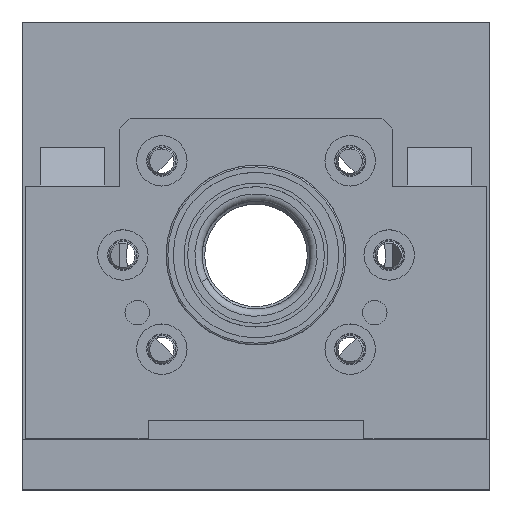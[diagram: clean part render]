
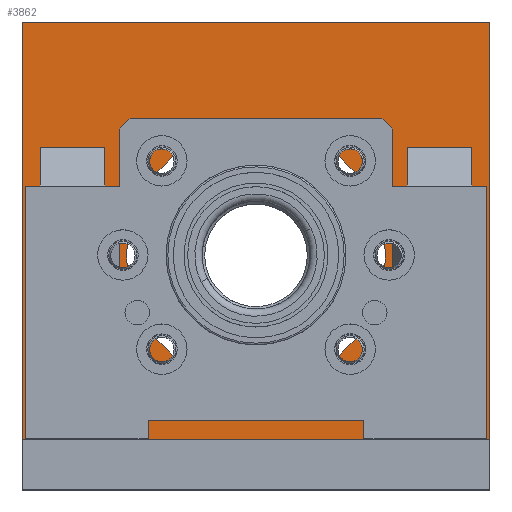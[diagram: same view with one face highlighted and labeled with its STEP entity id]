
A CAD part, top view. The second image highlights one B-rep face of the part: STEP entity #3862.
In plain terms, the highlighted planar face has unit normal (0, 0, 1).
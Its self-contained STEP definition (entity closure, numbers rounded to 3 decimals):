
#68 = LINE ( 'NONE', #2175, #3208 ) ;
#77 = EDGE_CURVE ( 'NONE', #4261, #1643, #68, .T. ) ;
#129 = ORIENTED_EDGE ( 'NONE', *, *, #1717, .F. ) ;
#202 = EDGE_CURVE ( 'NONE', #3459, #7214, #7135, .T. ) ;
#209 = EDGE_CURVE ( 'NONE', #3459, #3491, #6952, .T. ) ;
#260 = EDGE_CURVE ( 'NONE', #870, #368, #1742, .T. ) ;
#368 = VERTEX_POINT ( 'NONE', #6008 ) ;
#623 = VECTOR ( 'NONE', #2369, 1000. ) ;
#730 = VECTOR ( 'NONE', #2895, 1000. ) ;
#870 = VERTEX_POINT ( 'NONE', #1031 ) ;
#895 = EDGE_CURVE ( 'NONE', #4546, #7214, #6150, .T. ) ;
#995 = EDGE_CURVE ( 'NONE', #3491, #5666, #2002, .T. ) ;
#1031 = CARTESIAN_POINT ( 'NONE',  ( 36., 0., 20. ) ) ;
#1129 = DIRECTION ( 'NONE',  ( 0., 0., 1. ) ) ;
#1170 = DIRECTION ( 'NONE',  ( -1., 0., 0. ) ) ;
#1191 = EDGE_CURVE ( 'NONE', #5666, #5955, #4390, .T. ) ;
#1209 = CARTESIAN_POINT ( 'NONE',  ( -65., 30., 20. ) ) ;
#1221 = VERTEX_POINT ( 'NONE', #2875 ) ;
#1282 = CIRCLE ( 'NONE', #1438, 36. ) ;
#1285 = CARTESIAN_POINT ( 'NONE',  ( 60., 30., 20. ) ) ;
#1438 = AXIS2_PLACEMENT_3D ( 'NONE', #5314, #7604, #5363 ) ;
#1566 = CARTESIAN_POINT ( 'NONE',  ( -65., -65., 20. ) ) ;
#1590 = LINE ( 'NONE', #4244, #6181 ) ;
#1629 = DIRECTION ( 'NONE',  ( 0., 1., 0. ) ) ;
#1643 = VERTEX_POINT ( 'NONE', #3322 ) ;
#1717 = EDGE_CURVE ( 'NONE', #368, #870, #1282, .T. ) ;
#1742 = CIRCLE ( 'NONE', #2656, 36. ) ;
#1786 = EDGE_CURVE ( 'NONE', #5955, #2353, #2997, .T. ) ;
#1830 = PLANE ( 'NONE',  #2092 ) ;
#1885 = LINE ( 'NONE', #4214, #5887 ) ;
#2002 = LINE ( 'NONE', #2338, #623 ) ;
#2006 = ORIENTED_EDGE ( 'NONE', *, *, #5229, .T. ) ;
#2055 = CARTESIAN_POINT ( 'NONE',  ( 65., -51., 20. ) ) ;
#2092 = AXIS2_PLACEMENT_3D ( 'NONE', #1566, #1129, #2093 ) ;
#2093 = DIRECTION ( 'NONE',  ( 1., 0., 0. ) ) ;
#2152 = DIRECTION ( 'NONE',  ( -1., 0., 0. ) ) ;
#2175 = CARTESIAN_POINT ( 'NONE',  ( -65., -51., 20. ) ) ;
#2225 = CARTESIAN_POINT ( 'NONE',  ( 65., 65., 20. ) ) ;
#2338 = CARTESIAN_POINT ( 'NONE',  ( -42., 8., 20. ) ) ;
#2353 = VERTEX_POINT ( 'NONE', #4022 ) ;
#2369 = DIRECTION ( 'NONE',  ( 0., 1., 0. ) ) ;
#2448 = CARTESIAN_POINT ( 'NONE',  ( -65., 65., 20. ) ) ;
#2459 = DIRECTION ( 'NONE',  ( -1., 0., 0. ) ) ;
#2487 = VECTOR ( 'NONE', #1629, 1000. ) ;
#2530 = DIRECTION ( 'NONE',  ( 0., -1., 0. ) ) ;
#2596 = CARTESIAN_POINT ( 'NONE',  ( -65., 65., 20. ) ) ;
#2656 = AXIS2_PLACEMENT_3D ( 'NONE', #5861, #5872, #5895 ) ;
#2776 = LINE ( 'NONE', #2596, #7476 ) ;
#2819 = VECTOR ( 'NONE', #3029, 1000. ) ;
#2875 = CARTESIAN_POINT ( 'NONE',  ( -65., -51., 20. ) ) ;
#2895 = DIRECTION ( 'NONE',  ( 0., 1., 0. ) ) ;
#2955 = FACE_BOUND ( 'NONE', #3011, .T. ) ;
#2964 = CARTESIAN_POINT ( 'NONE',  ( -65., 65., 20. ) ) ;
#2997 = LINE ( 'NONE', #5728, #7320 ) ;
#3004 = CARTESIAN_POINT ( 'NONE',  ( -65., 30., 20. ) ) ;
#3006 = VERTEX_POINT ( 'NONE', #2964 ) ;
#3011 = EDGE_LOOP ( 'NONE', ( #129, #3255 ) ) ;
#3029 = DIRECTION ( 'NONE',  ( -1., 0., 0. ) ) ;
#3077 = ORIENTED_EDGE ( 'NONE', *, *, #3203, .T. ) ;
#3110 = CARTESIAN_POINT ( 'NONE',  ( 42., 30., 20. ) ) ;
#3112 = ORIENTED_EDGE ( 'NONE', *, *, #1786, .F. ) ;
#3150 = FACE_OUTER_BOUND ( 'NONE', #7720, .T. ) ;
#3203 = EDGE_CURVE ( 'NONE', #4546, #1643, #1885, .T. ) ;
#3208 = VECTOR ( 'NONE', #2152, 1000. ) ;
#3255 = ORIENTED_EDGE ( 'NONE', *, *, #260, .F. ) ;
#3286 = ORIENTED_EDGE ( 'NONE', *, *, #7784, .F. ) ;
#3322 = CARTESIAN_POINT ( 'NONE',  ( 60., -51., 20. ) ) ;
#3459 = VERTEX_POINT ( 'NONE', #6163 ) ;
#3491 = VERTEX_POINT ( 'NONE', #6331 ) ;
#3862 = ADVANCED_FACE ( 'NONE', ( #3150, #2955 ), #1830, .T. ) ;
#3889 = EDGE_CURVE ( 'NONE', #3006, #1221, #2776, .T. ) ;
#4022 = CARTESIAN_POINT ( 'NONE',  ( -60., -51., 20. ) ) ;
#4057 = LINE ( 'NONE', #2225, #2487 ) ;
#4088 = ORIENTED_EDGE ( 'NONE', *, *, #1191, .F. ) ;
#4198 = DIRECTION ( 'NONE',  ( 0., -1., 0. ) ) ;
#4214 = CARTESIAN_POINT ( 'NONE',  ( 60., 8., 20. ) ) ;
#4244 = CARTESIAN_POINT ( 'NONE',  ( -65., -51., 20. ) ) ;
#4261 = VERTEX_POINT ( 'NONE', #2055 ) ;
#4348 = DIRECTION ( 'NONE',  ( -1., 0., 0. ) ) ;
#4390 = LINE ( 'NONE', #3004, #2819 ) ;
#4448 = ORIENTED_EDGE ( 'NONE', *, *, #895, .F. ) ;
#4478 = VECTOR ( 'NONE', #1170, 1000. ) ;
#4516 = CARTESIAN_POINT ( 'NONE',  ( -60., 30., 20. ) ) ;
#4546 = VERTEX_POINT ( 'NONE', #1285 ) ;
#4678 = CARTESIAN_POINT ( 'NONE',  ( 42., 8., 20. ) ) ;
#5229 = EDGE_CURVE ( 'NONE', #6983, #3006, #7553, .T. ) ;
#5260 = VECTOR ( 'NONE', #5501, 1000. ) ;
#5274 = EDGE_CURVE ( 'NONE', #4261, #6983, #4057, .T. ) ;
#5314 = CARTESIAN_POINT ( 'NONE',  ( 0., 0., 20. ) ) ;
#5363 = DIRECTION ( 'NONE',  ( 1., 0., 0. ) ) ;
#5489 = CARTESIAN_POINT ( 'NONE',  ( -65., -51., 20. ) ) ;
#5501 = DIRECTION ( 'NONE',  ( -1., 0., 0. ) ) ;
#5533 = DIRECTION ( 'NONE',  ( 0., -1., 0. ) ) ;
#5628 = CARTESIAN_POINT ( 'NONE',  ( 65., 65., 20. ) ) ;
#5666 = VERTEX_POINT ( 'NONE', #7542 ) ;
#5728 = CARTESIAN_POINT ( 'NONE',  ( -60., 8., 20. ) ) ;
#5861 = CARTESIAN_POINT ( 'NONE',  ( 0., 0., 20. ) ) ;
#5862 = VECTOR ( 'NONE', #2459, 1000. ) ;
#5872 = DIRECTION ( 'NONE',  ( 0., 0., 1. ) ) ;
#5887 = VECTOR ( 'NONE', #4198, 1000. ) ;
#5891 = ORIENTED_EDGE ( 'NONE', *, *, #209, .F. ) ;
#5895 = DIRECTION ( 'NONE',  ( 1., 0., 0. ) ) ;
#5955 = VERTEX_POINT ( 'NONE', #4516 ) ;
#6008 = CARTESIAN_POINT ( 'NONE',  ( -36., 0., 20. ) ) ;
#6150 = LINE ( 'NONE', #1209, #4478 ) ;
#6163 = CARTESIAN_POINT ( 'NONE',  ( 42., -51., 20. ) ) ;
#6181 = VECTOR ( 'NONE', #4348, 1000. ) ;
#6331 = CARTESIAN_POINT ( 'NONE',  ( -42., -51., 20. ) ) ;
#6952 = LINE ( 'NONE', #5489, #5260 ) ;
#6983 = VERTEX_POINT ( 'NONE', #5628 ) ;
#7030 = ORIENTED_EDGE ( 'NONE', *, *, #77, .F. ) ;
#7135 = LINE ( 'NONE', #4678, #730 ) ;
#7214 = VERTEX_POINT ( 'NONE', #3110 ) ;
#7221 = ORIENTED_EDGE ( 'NONE', *, *, #5274, .T. ) ;
#7320 = VECTOR ( 'NONE', #5533, 1000. ) ;
#7395 = ORIENTED_EDGE ( 'NONE', *, *, #995, .F. ) ;
#7476 = VECTOR ( 'NONE', #2530, 1000. ) ;
#7542 = CARTESIAN_POINT ( 'NONE',  ( -42., 30., 20. ) ) ;
#7553 = LINE ( 'NONE', #2448, #5862 ) ;
#7587 = ORIENTED_EDGE ( 'NONE', *, *, #202, .T. ) ;
#7604 = DIRECTION ( 'NONE',  ( 0., 0., 1. ) ) ;
#7720 = EDGE_LOOP ( 'NONE', ( #7030, #7221, #2006, #7818, #3286, #3112, #4088, #7395, #5891, #7587, #4448, #3077 ) ) ;
#7784 = EDGE_CURVE ( 'NONE', #2353, #1221, #1590, .T. ) ;
#7818 = ORIENTED_EDGE ( 'NONE', *, *, #3889, .T. ) ;
